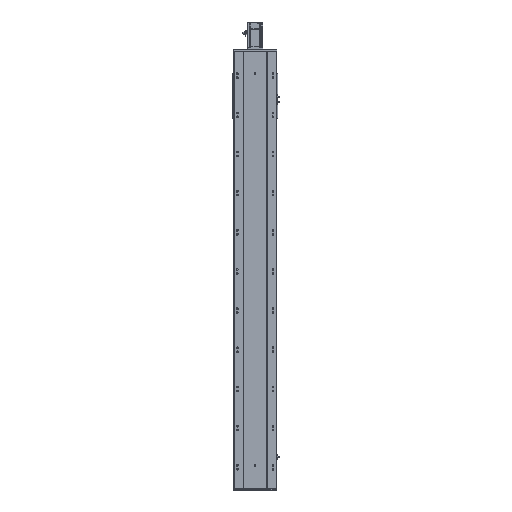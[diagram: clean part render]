
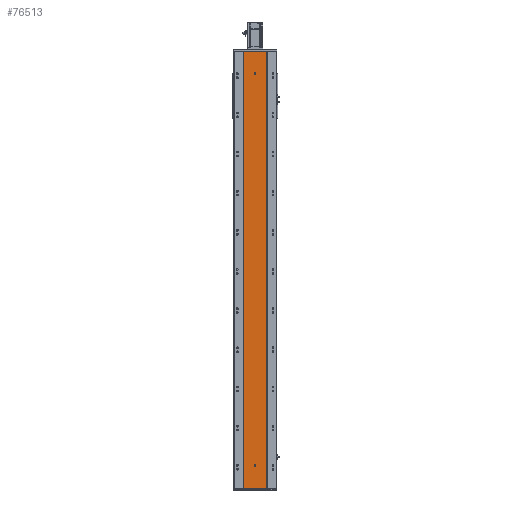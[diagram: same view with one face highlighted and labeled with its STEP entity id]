
A CAD part, front view. The second image highlights one B-rep face of the part: STEP entity #76513.
In plain terms, the highlighted planar face has unit normal (0, -1, 0).
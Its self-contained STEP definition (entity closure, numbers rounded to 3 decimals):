
#366 = FACE_BOUND ( 'NONE', #20544, .T. ) ;
#551 = DIRECTION ( 'NONE',  ( 0., 0., -1. ) ) ;
#736 = ORIENTED_EDGE ( 'NONE', *, *, #17455, .F. ) ;
#1536 = VECTOR ( 'NONE', #69629, 1000. ) ;
#2304 = DIRECTION ( 'NONE',  ( 0., 0., -1. ) ) ;
#3647 = EDGE_CURVE ( 'NONE', #71978, #44737, #21553, .T. ) ;
#3655 = CARTESIAN_POINT ( 'NONE',  ( -60., 0., 2232. ) ) ;
#4768 = EDGE_LOOP ( 'NONE', ( #70762, #73024, #69130, #14797 ) ) ;
#5161 = LINE ( 'NONE', #45750, #68046 ) ;
#5184 = FACE_BOUND ( 'NONE', #73738, .T. ) ;
#5550 = CARTESIAN_POINT ( 'NONE',  ( -60., 0., 2232. ) ) ;
#6482 = EDGE_CURVE ( 'NONE', #70146, #44505, #42842, .T. ) ;
#6594 = EDGE_CURVE ( 'NONE', #44737, #48485, #66625, .T. ) ;
#9302 = DIRECTION ( 'NONE',  ( 1., 0., 0. ) ) ;
#9511 = CARTESIAN_POINT ( 'NONE',  ( -4., 0., 116.5 ) ) ;
#10840 = CARTESIAN_POINT ( 'NONE',  ( 4., 0., 119.5 ) ) ;
#13294 = AXIS2_PLACEMENT_3D ( 'NONE', #76688, #45852, #15503 ) ;
#13989 = CIRCLE ( 'NONE', #16303, 4. ) ;
#14100 = AXIS2_PLACEMENT_3D ( 'NONE', #37802, #55930, #551 ) ;
#14797 = ORIENTED_EDGE ( 'NONE', *, *, #6482, .T. ) ;
#15503 = DIRECTION ( 'NONE',  ( 0., 0., -1. ) ) ;
#16135 = CIRCLE ( 'NONE', #53052, 4. ) ;
#16303 = AXIS2_PLACEMENT_3D ( 'NONE', #16873, #53896, #29385 ) ;
#16873 = CARTESIAN_POINT ( 'NONE',  ( 0., 0., 2118. ) ) ;
#17455 = EDGE_CURVE ( 'NONE', #48485, #39754, #16135, .T. ) ;
#18372 = EDGE_CURVE ( 'NONE', #70146, #21846, #22724, .T. ) ;
#19005 = VERTEX_POINT ( 'NONE', #26468 ) ;
#19856 = DIRECTION ( 'NONE',  ( 0., -1., 0. ) ) ;
#20051 = EDGE_CURVE ( 'NONE', #38411, #71978, #54826, .T. ) ;
#20544 = EDGE_LOOP ( 'NONE', ( #55298, #41551, #736, #57964, #50079 ) ) ;
#20976 = CARTESIAN_POINT ( 'NONE',  ( 60., 0., 2232. ) ) ;
#21275 = CIRCLE ( 'NONE', #56314, 4. ) ;
#21553 = CIRCLE ( 'NONE', #14100, 4. ) ;
#21846 = VERTEX_POINT ( 'NONE', #56493 ) ;
#22724 = LINE ( 'NONE', #3655, #72206 ) ;
#23421 = PLANE ( 'NONE',  #46038 ) ;
#23688 = DIRECTION ( 'NONE',  ( 0., 0., 1. ) ) ;
#23769 = VECTOR ( 'NONE', #2304, 1000. ) ;
#24055 = CARTESIAN_POINT ( 'NONE',  ( -4., 0., 119.5 ) ) ;
#24083 = VERTEX_POINT ( 'NONE', #54896 ) ;
#25607 = DIRECTION ( 'NONE',  ( 0., -1., 0. ) ) ;
#25804 = CARTESIAN_POINT ( 'NONE',  ( -60., 0., 2232. ) ) ;
#26468 = CARTESIAN_POINT ( 'NONE',  ( 60., 0., 0. ) ) ;
#26666 = VECTOR ( 'NONE', #56404, 1000. ) ;
#28195 = CARTESIAN_POINT ( 'NONE',  ( 4., 0., 116.5 ) ) ;
#29385 = DIRECTION ( 'NONE',  ( 0., 0., -1. ) ) ;
#29585 = VERTEX_POINT ( 'NONE', #71145 ) ;
#30166 = DIRECTION ( 'NONE',  ( 0., 0., -1. ) ) ;
#32295 = CARTESIAN_POINT ( 'NONE',  ( 0., 0., 112.5 ) ) ;
#37802 = CARTESIAN_POINT ( 'NONE',  ( 0., 0., 119.5 ) ) ;
#38286 = EDGE_CURVE ( 'NONE', #44505, #19005, #5161, .T. ) ;
#38411 = VERTEX_POINT ( 'NONE', #28195 ) ;
#39754 = VERTEX_POINT ( 'NONE', #32295 ) ;
#39850 = EDGE_CURVE ( 'NONE', #29585, #24083, #71177, .T. ) ;
#40367 = FACE_OUTER_BOUND ( 'NONE', #4768, .T. ) ;
#40780 = CARTESIAN_POINT ( 'NONE',  ( -60., 0., 2232. ) ) ;
#41551 = ORIENTED_EDGE ( 'NONE', *, *, #66775, .F. ) ;
#42597 = LINE ( 'NONE', #20976, #76852 ) ;
#42842 = LINE ( 'NONE', #25804, #26666 ) ;
#44505 = VERTEX_POINT ( 'NONE', #76992 ) ;
#44737 = VERTEX_POINT ( 'NONE', #24055 ) ;
#44827 = ORIENTED_EDGE ( 'NONE', *, *, #72373, .F. ) ;
#44857 = CARTESIAN_POINT ( 'NONE',  ( 0., 0., 116.5 ) ) ;
#45750 = CARTESIAN_POINT ( 'NONE',  ( -60., 0., 0. ) ) ;
#45852 = DIRECTION ( 'NONE',  ( 0., -1., 0. ) ) ;
#46038 = AXIS2_PLACEMENT_3D ( 'NONE', #5550, #48157, #23688 ) ;
#46281 = DIRECTION ( 'NONE',  ( 1., 0., 0. ) ) ;
#48157 = DIRECTION ( 'NONE',  ( 0., 1., 0. ) ) ;
#48485 = VERTEX_POINT ( 'NONE', #61831 ) ;
#50079 = ORIENTED_EDGE ( 'NONE', *, *, #3647, .F. ) ;
#50769 = EDGE_CURVE ( 'NONE', #21846, #19005, #42597, .T. ) ;
#53052 = AXIS2_PLACEMENT_3D ( 'NONE', #44857, #19856, #75191 ) ;
#53896 = DIRECTION ( 'NONE',  ( 0., -1., 0. ) ) ;
#54826 = LINE ( 'NONE', #75468, #1536 ) ;
#54896 = CARTESIAN_POINT ( 'NONE',  ( 0., 0., 2122. ) ) ;
#55298 = ORIENTED_EDGE ( 'NONE', *, *, #20051, .F. ) ;
#55930 = DIRECTION ( 'NONE',  ( 0., -1., 0. ) ) ;
#56314 = AXIS2_PLACEMENT_3D ( 'NONE', #75052, #25607, #67926 ) ;
#56404 = DIRECTION ( 'NONE',  ( 0., 0., -1. ) ) ;
#56493 = CARTESIAN_POINT ( 'NONE',  ( 60., 0., 2232. ) ) ;
#57964 = ORIENTED_EDGE ( 'NONE', *, *, #6594, .F. ) ;
#61831 = CARTESIAN_POINT ( 'NONE',  ( -4., 0., 116.5 ) ) ;
#62342 = ORIENTED_EDGE ( 'NONE', *, *, #39850, .F. ) ;
#66625 = LINE ( 'NONE', #9511, #23769 ) ;
#66775 = EDGE_CURVE ( 'NONE', #39754, #38411, #21275, .T. ) ;
#67926 = DIRECTION ( 'NONE',  ( 0., 0., -1. ) ) ;
#68046 = VECTOR ( 'NONE', #9302, 1000. ) ;
#69130 = ORIENTED_EDGE ( 'NONE', *, *, #18372, .F. ) ;
#69629 = DIRECTION ( 'NONE',  ( 0., 0., 1. ) ) ;
#70146 = VERTEX_POINT ( 'NONE', #40780 ) ;
#70762 = ORIENTED_EDGE ( 'NONE', *, *, #38286, .T. ) ;
#71145 = CARTESIAN_POINT ( 'NONE',  ( 0., 0., 2114. ) ) ;
#71177 = CIRCLE ( 'NONE', #13294, 4. ) ;
#71978 = VERTEX_POINT ( 'NONE', #10840 ) ;
#72206 = VECTOR ( 'NONE', #46281, 1000. ) ;
#72373 = EDGE_CURVE ( 'NONE', #24083, #29585, #13989, .T. ) ;
#73024 = ORIENTED_EDGE ( 'NONE', *, *, #50769, .F. ) ;
#73738 = EDGE_LOOP ( 'NONE', ( #62342, #44827 ) ) ;
#75052 = CARTESIAN_POINT ( 'NONE',  ( 0., 0., 116.5 ) ) ;
#75191 = DIRECTION ( 'NONE',  ( 0., 0., -1. ) ) ;
#75468 = CARTESIAN_POINT ( 'NONE',  ( 4., 0., 116.5 ) ) ;
#76513 = ADVANCED_FACE ( 'NONE', ( #5184, #366, #40367 ), #23421, .F. ) ;
#76688 = CARTESIAN_POINT ( 'NONE',  ( 0., 0., 2118. ) ) ;
#76852 = VECTOR ( 'NONE', #30166, 1000. ) ;
#76992 = CARTESIAN_POINT ( 'NONE',  ( -60., 0., 0. ) ) ;
